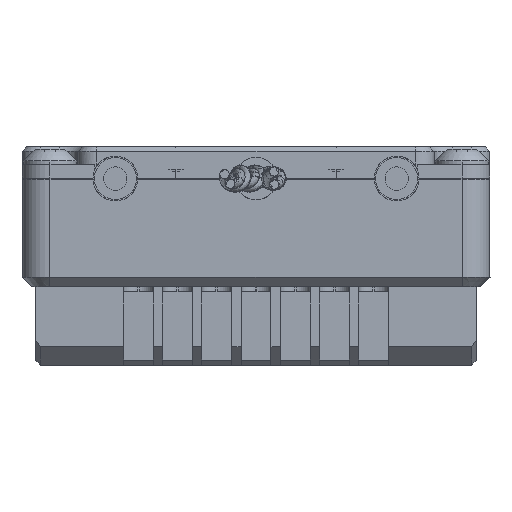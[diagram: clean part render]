
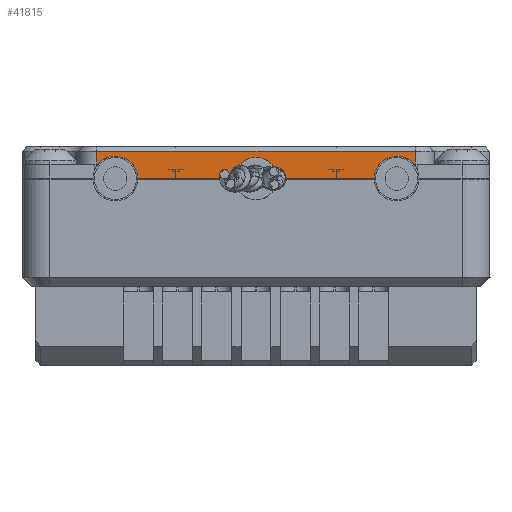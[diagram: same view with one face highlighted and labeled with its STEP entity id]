
A CAD part, left-side view. The second image highlights one B-rep face of the part: STEP entity #41815.
In plain terms, the highlighted planar face has unit normal (-1, 0, 0).
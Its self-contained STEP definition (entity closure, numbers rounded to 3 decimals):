
#8 = CARTESIAN_POINT ( 'NONE',  ( 104.613, 153.787, 308.108 ) ) ;
#129 = VECTOR ( 'NONE', #8343, 1000. ) ;
#239 = AXIS2_PLACEMENT_3D ( 'NONE', #41032, #21371, #41792 ) ;
#244 = EDGE_CURVE ( 'NONE', #46733, #39583, #19417, .T. ) ;
#507 = DIRECTION ( 'NONE',  ( -1., 0., 0. ) ) ;
#1203 = EDGE_CURVE ( 'NONE', #37146, #34681, #7157, .T. ) ;
#1377 = ORIENTED_EDGE ( 'NONE', *, *, #30149, .F. ) ;
#2468 = EDGE_CURVE ( 'NONE', #34681, #42287, #49303, .T. ) ;
#2494 = DIRECTION ( 'NONE',  ( 0., 0., 1. ) ) ;
#2510 = LINE ( 'NONE', #45691, #20703 ) ;
#2609 = CARTESIAN_POINT ( 'NONE',  ( 104.613, 153.787, 301.608 ) ) ;
#2938 = EDGE_CURVE ( 'NONE', #18600, #14405, #45827, .T. ) ;
#3023 = DIRECTION ( 'NONE',  ( 0., -1., 0. ) ) ;
#4321 = CARTESIAN_POINT ( 'NONE',  ( 104.613, 219.501, 307.608 ) ) ;
#4899 = CARTESIAN_POINT ( 'NONE',  ( 104.613, 204.428, 305.208 ) ) ;
#4908 = VERTEX_POINT ( 'NONE', #23294 ) ;
#5624 = EDGE_CURVE ( 'NONE', #25663, #46733, #11732, .T. ) ;
#6802 = VECTOR ( 'NONE', #43732, 1000. ) ;
#6927 = ORIENTED_EDGE ( 'NONE', *, *, #45912, .F. ) ;
#7157 = LINE ( 'NONE', #26549, #12806 ) ;
#7868 = DIRECTION ( 'NONE',  ( 0., 0., 1. ) ) ;
#8343 = DIRECTION ( 'NONE',  ( 0., -1., 0. ) ) ;
#8467 = CARTESIAN_POINT ( 'NONE',  ( 104.613, 217.101, 305.258 ) ) ;
#8674 = CARTESIAN_POINT ( 'NONE',  ( 104.613, 189.355, 305.208 ) ) ;
#9545 = EDGE_CURVE ( 'NONE', #35514, #41230, #14258, .T. ) ;
#9924 = ORIENTED_EDGE ( 'NONE', *, *, #45833, .T. ) ;
#10106 = DIRECTION ( 'NONE',  ( 0., 0., 1. ) ) ;
#10778 = DIRECTION ( 'NONE',  ( 0., 0., 1. ) ) ;
#11116 = AXIS2_PLACEMENT_3D ( 'NONE', #2609, #18392, #10106 ) ;
#11732 = LINE ( 'NONE', #35794, #35439 ) ;
#12806 = VECTOR ( 'NONE', #3023, 1000. ) ;
#13127 = DIRECTION ( 'NONE',  ( 0., -1., 0. ) ) ;
#13236 = CARTESIAN_POINT ( 'NONE',  ( 104.613, 202.152, 305.258 ) ) ;
#13373 = CARTESIAN_POINT ( 'NONE',  ( 104.613, 206.705, 305.258 ) ) ;
#13464 = CIRCLE ( 'NONE', #239, 2.4 ) ;
#14089 = CIRCLE ( 'NONE', #29765, 2.4 ) ;
#14258 = CIRCLE ( 'NONE', #48117, 2.276 ) ;
#14405 = VERTEX_POINT ( 'NONE', #39197 ) ;
#15896 = DIRECTION ( 'NONE',  ( -1., 0., 0. ) ) ;
#16579 = CARTESIAN_POINT ( 'NONE',  ( 104.613, 221.501, 308.108 ) ) ;
#17064 = ORIENTED_EDGE ( 'NONE', *, *, #1203, .T. ) ;
#17574 = VERTEX_POINT ( 'NONE', #38309 ) ;
#17893 = PLANE ( 'NONE',  #11116 ) ;
#18030 = CARTESIAN_POINT ( 'NONE',  ( 104.613, 204.428, 305.208 ) ) ;
#18345 = CARTESIAN_POINT ( 'NONE',  ( 104.613, 187.355, 306.534 ) ) ;
#18392 = DIRECTION ( 'NONE',  ( -1., 0., 0. ) ) ;
#18600 = VERTEX_POINT ( 'NONE', #20525 ) ;
#19106 = ORIENTED_EDGE ( 'NONE', *, *, #9545, .F. ) ;
#19417 = LINE ( 'NONE', #8, #38300 ) ;
#20109 = ORIENTED_EDGE ( 'NONE', *, *, #2468, .T. ) ;
#20525 = CARTESIAN_POINT ( 'NONE',  ( 104.613, 189.355, 307.608 ) ) ;
#20569 = DIRECTION ( 'NONE',  ( 0., 0., 1. ) ) ;
#20703 = VECTOR ( 'NONE', #33290, 1000. ) ;
#21371 = DIRECTION ( 'NONE',  ( -1., 0., 0. ) ) ;
#21612 = EDGE_CURVE ( 'NONE', #39583, #4908, #28040, .T. ) ;
#22904 = ORIENTED_EDGE ( 'NONE', *, *, #5624, .T. ) ;
#23099 = CARTESIAN_POINT ( 'NONE',  ( 104.613, 202.152, 305.258 ) ) ;
#23294 = CARTESIAN_POINT ( 'NONE',  ( 104.613, 221.501, 306.534 ) ) ;
#24434 = DIRECTION ( 'NONE',  ( -1., 0., 0. ) ) ;
#24621 = ORIENTED_EDGE ( 'NONE', *, *, #21612, .T. ) ;
#24911 = DIRECTION ( 'NONE',  ( 0., 0., -1. ) ) ;
#25663 = VERTEX_POINT ( 'NONE', #18345 ) ;
#26203 = ORIENTED_EDGE ( 'NONE', *, *, #28691, .T. ) ;
#26549 = CARTESIAN_POINT ( 'NONE',  ( 104.613, 217.101, 305.258 ) ) ;
#26738 = CARTESIAN_POINT ( 'NONE',  ( 104.613, 186.955, 305.258 ) ) ;
#26854 = VECTOR ( 'NONE', #28616, 1000. ) ;
#27734 = ORIENTED_EDGE ( 'NONE', *, *, #33009, .T. ) ;
#27996 = LINE ( 'NONE', #13236, #129 ) ;
#28040 = LINE ( 'NONE', #36570, #29252 ) ;
#28120 = EDGE_CURVE ( 'NONE', #37146, #34665, #42086, .T. ) ;
#28616 = DIRECTION ( 'NONE',  ( 0., -1., 0. ) ) ;
#28634 = EDGE_LOOP ( 'NONE', ( #40094, #27734, #37530, #1377, #22904, #39448, #24621, #6927, #37330, #17064, #20109, #26203, #48914, #19106, #9924 ) ) ;
#28691 = EDGE_CURVE ( 'NONE', #42287, #37289, #27996, .T. ) ;
#28871 = CARTESIAN_POINT ( 'NONE',  ( 104.613, 191.755, 305.258 ) ) ;
#28983 = VERTEX_POINT ( 'NONE', #34411 ) ;
#29252 = VECTOR ( 'NONE', #24911, 1000. ) ;
#29706 = AXIS2_PLACEMENT_3D ( 'NONE', #46672, #15896, #31666 ) ;
#29765 = AXIS2_PLACEMENT_3D ( 'NONE', #38952, #38706, #10778 ) ;
#30149 = EDGE_CURVE ( 'NONE', #25663, #18600, #13464, .T. ) ;
#31666 = DIRECTION ( 'NONE',  ( 0., 0., 1. ) ) ;
#32249 = LINE ( 'NONE', #28871, #26854 ) ;
#32362 = LINE ( 'NONE', #26738, #6802 ) ;
#33009 = EDGE_CURVE ( 'NONE', #28983, #14405, #32362, .T. ) ;
#33290 = DIRECTION ( 'NONE',  ( 0., -1., 0. ) ) ;
#33547 = DIRECTION ( 'NONE',  ( -1., 0., 0. ) ) ;
#33850 = CARTESIAN_POINT ( 'NONE',  ( 104.613, 206.705, 305.258 ) ) ;
#33943 = CARTESIAN_POINT ( 'NONE',  ( 104.613, 187.355, 308.108 ) ) ;
#34411 = CARTESIAN_POINT ( 'NONE',  ( 104.613, 191.755, 305.258 ) ) ;
#34665 = VERTEX_POINT ( 'NONE', #4321 ) ;
#34681 = VERTEX_POINT ( 'NONE', #8467 ) ;
#35087 = VECTOR ( 'NONE', #13127, 1000. ) ;
#35125 = AXIS2_PLACEMENT_3D ( 'NONE', #8674, #24434, #20569 ) ;
#35439 = VECTOR ( 'NONE', #7868, 1000. ) ;
#35514 = VERTEX_POINT ( 'NONE', #23099 ) ;
#35794 = CARTESIAN_POINT ( 'NONE',  ( 104.613, 187.355, 308.608 ) ) ;
#36079 = EDGE_CURVE ( 'NONE', #41230, #37289, #46722, .T. ) ;
#36410 = CARTESIAN_POINT ( 'NONE',  ( 104.613, 206.704, 305.258 ) ) ;
#36570 = CARTESIAN_POINT ( 'NONE',  ( 104.613, 221.501, 306.208 ) ) ;
#37146 = VERTEX_POINT ( 'NONE', #41933 ) ;
#37289 = VERTEX_POINT ( 'NONE', #36410 ) ;
#37330 = ORIENTED_EDGE ( 'NONE', *, *, #28120, .F. ) ;
#37530 = ORIENTED_EDGE ( 'NONE', *, *, #2938, .F. ) ;
#38050 = FACE_OUTER_BOUND ( 'NONE', #28634, .T. ) ;
#38300 = VECTOR ( 'NONE', #47578, 1000. ) ;
#38309 = CARTESIAN_POINT ( 'NONE',  ( 104.613, 202.152, 305.258 ) ) ;
#38706 = DIRECTION ( 'NONE',  ( -1., 0., 0. ) ) ;
#38952 = CARTESIAN_POINT ( 'NONE',  ( 104.613, 219.501, 305.208 ) ) ;
#39197 = CARTESIAN_POINT ( 'NONE',  ( 104.613, 191.755, 305.258 ) ) ;
#39448 = ORIENTED_EDGE ( 'NONE', *, *, #244, .T. ) ;
#39489 = CARTESIAN_POINT ( 'NONE',  ( 104.613, 204.428, 307.484 ) ) ;
#39583 = VERTEX_POINT ( 'NONE', #16579 ) ;
#40094 = ORIENTED_EDGE ( 'NONE', *, *, #50110, .T. ) ;
#40963 = AXIS2_PLACEMENT_3D ( 'NONE', #18030, #33547, #2494 ) ;
#41032 = CARTESIAN_POINT ( 'NONE',  ( 104.613, 189.355, 305.208 ) ) ;
#41230 = VERTEX_POINT ( 'NONE', #39489 ) ;
#41792 = DIRECTION ( 'NONE',  ( 0., 0., 1. ) ) ;
#41815 = ADVANCED_FACE ( 'NONE', ( #38050 ), #17893, .T. ) ;
#41933 = CARTESIAN_POINT ( 'NONE',  ( 104.613, 217.102, 305.258 ) ) ;
#42086 = CIRCLE ( 'NONE', #29706, 2.4 ) ;
#42287 = VERTEX_POINT ( 'NONE', #33850 ) ;
#43732 = DIRECTION ( 'NONE',  ( 0., -1., 0. ) ) ;
#44445 = DIRECTION ( 'NONE',  ( 0., 0., 1. ) ) ;
#45691 = CARTESIAN_POINT ( 'NONE',  ( 104.613, 202.152, 305.258 ) ) ;
#45827 = CIRCLE ( 'NONE', #35125, 2.4 ) ;
#45833 = EDGE_CURVE ( 'NONE', #35514, #17574, #2510, .T. ) ;
#45912 = EDGE_CURVE ( 'NONE', #34665, #4908, #14089, .T. ) ;
#46672 = CARTESIAN_POINT ( 'NONE',  ( 104.613, 219.501, 305.208 ) ) ;
#46722 = CIRCLE ( 'NONE', #40963, 2.276 ) ;
#46733 = VERTEX_POINT ( 'NONE', #33943 ) ;
#47578 = DIRECTION ( 'NONE',  ( 0., 1., 0. ) ) ;
#48117 = AXIS2_PLACEMENT_3D ( 'NONE', #4899, #507, #44445 ) ;
#48914 = ORIENTED_EDGE ( 'NONE', *, *, #36079, .F. ) ;
#49303 = LINE ( 'NONE', #13373, #35087 ) ;
#50110 = EDGE_CURVE ( 'NONE', #17574, #28983, #32249, .T. ) ;
